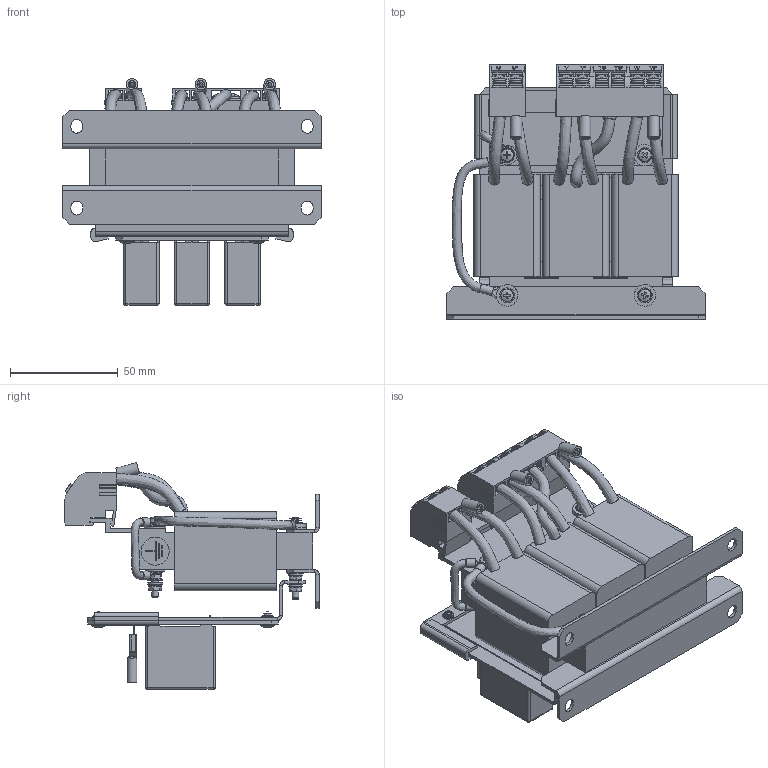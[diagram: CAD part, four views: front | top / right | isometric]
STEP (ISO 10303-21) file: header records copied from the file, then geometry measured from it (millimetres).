
FILE_DESCRIPTION(/* description */ (''),/* implementation_level */ '2;1');
FILE_NAME(/* name */ 'C:\Users\Erika.Jenzer\OneDrive - Schaffner EMV AG\BELLA\STEP FILES BELLA\FN\FN5420-2.3-88-E0XXT.stp',/* time_stamp */ '2021-07-08T08:15:31+02:00',/* author */ ('erika.jenzer'),/* organization */ (''),/* preprocessor_version */ 'ST-DEVELOPER v18.1',/* originating_system */ 'Autodesk Inventor 2020',/* authorisation */ '');
FILE_SCHEMA (('AUTOMOTIVE_DESIGN { 1 0 10303 214 3 1 1 }'));
Products named in the file (1): FN5420-2.3-88-E0XXT
Bounding box: 120 x 118.15 x 105.43 mm (x, y, z)
Volume: 320863.9 mm3; surface area: 117827.7 mm2
Topology: 1 solids, 82 shells, 3660 faces, 9720 edges, 6333 vertices
Faces by surface type: plane 2725, cylinder 625, bspline 144, cone 60, torus 58, sphere 48
Full cylindrical faces by diameter (mm): 0.013 x2, 0.021 x2, 0.8 x18, 1.2 x12, 1.8 x3, 2 x7, 2.3 x4, 2.7 x3, 3 x23, 3.1 x5, 3.2 x28, 3.3 x4, 3.4 x13, 3.5 x3, 3.6 x6, 3.8 x4, 3.9 x1, 4 x4, 4.1 x3, 4.2 x3, 4.3 x1, 4.5 x8, 5.2 x4, 5.4 x2, 5.7 x8, 6 x2, 6.5 x4, 7 x10, 9 x2, 10 x3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
Entity records: 126066 total; most frequent: CARTESIAN_POINT 31688, ORIENTED_EDGE 19420, DIRECTION 18599, EDGE_CURVE 9710, LINE 6605, VECTOR 6605, VERTEX_POINT 6333, AXIS2_PLACEMENT_3D 5997
